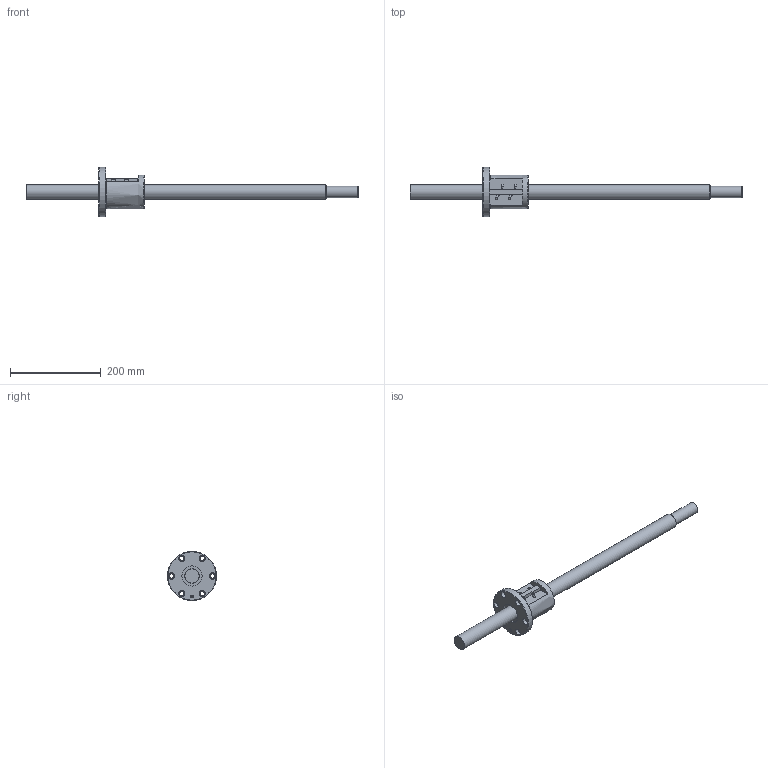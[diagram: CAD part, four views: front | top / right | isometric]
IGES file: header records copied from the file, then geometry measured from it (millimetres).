
Start section: Data from Parasolid IGES Translator 26.0.171, Copyright(c) 2006 Siemens PLM Software. All Rights Reserved.
Global section: file name: BNF3210A-5RRG1+730LC5A(00).igs; native system: By Siemens PLM Incorporated; preprocessor: XPlus GENERIC/IGES 26.0.171; author: Noname; organization: Noname; date: 20240715.074902; units: millimetre
Bounding box: 730 x 108 x 108 mm (x, y, z)
Surface area: 130627.9 mm2 (no closed solid volume)
Topology: 0 solids, 0 shells, 70 faces, 322 edges, 284 vertices
Faces by surface type: revolution 46, extrusion 24
